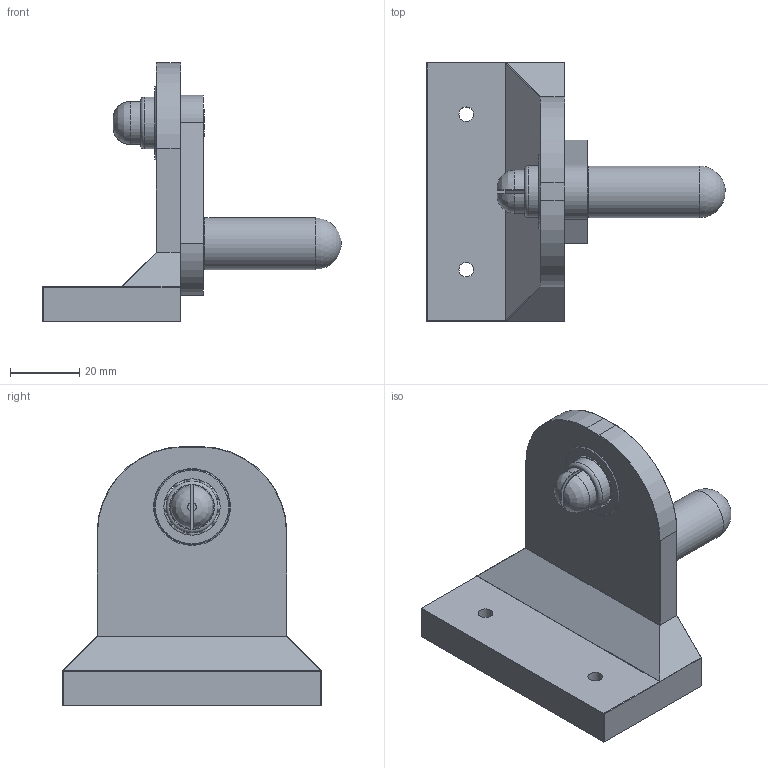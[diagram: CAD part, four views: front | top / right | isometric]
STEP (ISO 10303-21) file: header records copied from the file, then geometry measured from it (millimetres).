
FILE_DESCRIPTION(/* description */ (''),/* implementation_level */ '2;1');
FILE_NAME(/* name */ 'C:/Users/Obelenus Makerspace/Downloads/Floss Winder/Floss Winder v5.step',/* time_stamp */ '2020-04-29T13:45:57-04:00',/* author */ (''),/* organization */ (''),/* preprocessor_version */ 'ST-DEVELOPER v18.1',/* originating_system */ 'Autodesk Translation Framework v9.2.0.1227',/* authorisation */ '');
FILE_SCHEMA (('AUTOMOTIVE_DESIGN { 1 0 10303 214 3 1 1 }'));
Length unit declared in the file: millimetre
Products named in the file (6): Floss Winder; 5972K91; Holder Stud; Handle Bar; 5972K91 (1); Handle
Assembly tree (5 placements, depth 3):
  Floss Winder
    5972K91
    Holder Stud
      Handle Bar
    5972K91 (1)
    Handle
Bounding box: 86.53 x 75 x 75 mm (x, y, z)
Volume: 73466.1 mm3; surface area: 26834 mm2
Topology: 32 solids, 32 shells, 176 faces, 440 edges, 283 vertices
Faces by surface type: cylinder 56, plane 34, sphere 29, bspline 24, torus 23, cone 10
Full cylindrical faces by diameter (mm): 4.25 x2, 8 x4, 8.1 x1, 13.681 x4, 15 x2, 16.319 x4, 22 x4
Entity records: 6262 total; most frequent: CARTESIAN_POINT 1949, DIRECTION 937, ORIENTED_EDGE 782, AXIS2_PLACEMENT_3D 415, EDGE_CURVE 391, VERTEX_POINT 283, CIRCLE 246, EDGE_LOOP 198
